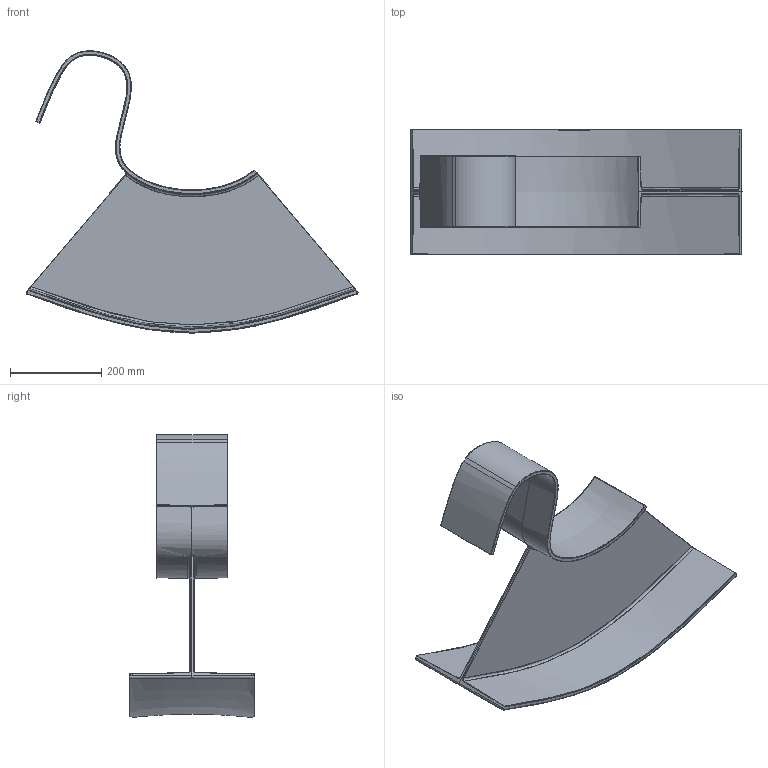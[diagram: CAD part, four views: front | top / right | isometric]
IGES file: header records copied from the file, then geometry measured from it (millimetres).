
Global section: file name: D:\3ddFactory\3D_Kartell\da controllare_3dd\3270\H-Horse_3d_Nendo_Kartell.igs; native system: Rhinoceros ( Mar 10 2014 ); preprocessor: Trout Lake IGES 012 Mar 10 2014; date: 180210.155306; units: millimetre
Bounding box: 729.14 x 274.4 x 620.32 mm (x, y, z)
Surface area: 1008728.1 mm2 (no closed solid volume)
Topology: 0 solids, 0 shells, 125 faces, 782 edges, 781 vertices
Faces by surface type: bspline 125
